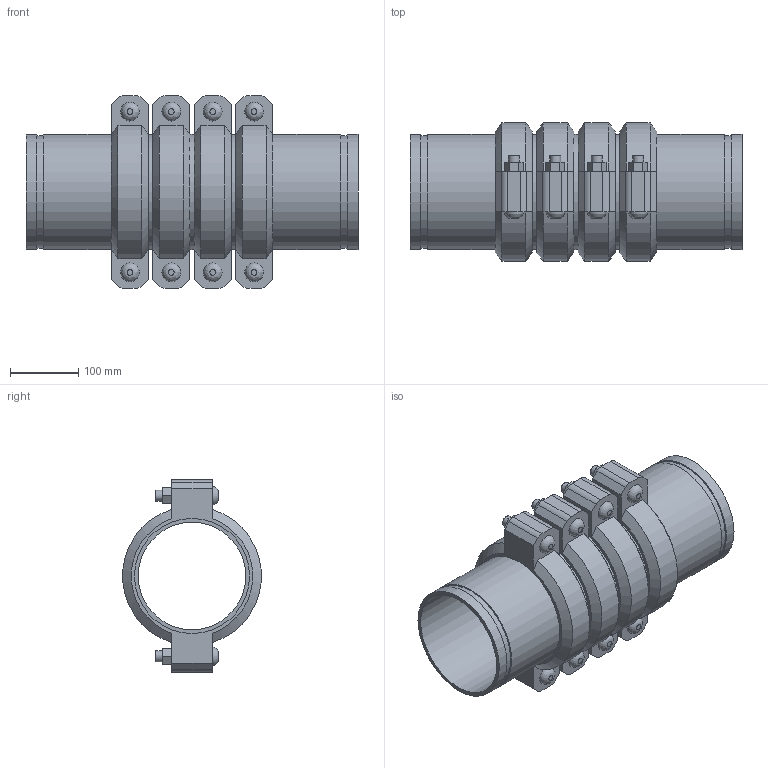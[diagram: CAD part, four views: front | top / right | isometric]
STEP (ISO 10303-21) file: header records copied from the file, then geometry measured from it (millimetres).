
FILE_DESCRIPTION(/* description */ ('VIC EXPANSION JOINT 4 COUPLINGS COMPRESSED STYLE 155 (OGS)','CAx-IF Rec.Pracs.---Representation and Presentation of Product Manufacturing Information (PMI)---4.0---2014-10-13'),/* implementation_level */ '2;1');
FILE_NAME(/* name */ 'C:\Users\kkamble\AppData\Roaming\Autodesk\ApplicationPlugins\Victaulic.Temp\A318\Victaulic_IPS_Expansion Joint_Compressed_4 Couplings_Style 155 (OGS)_6 (150).stp',/* time_stamp */ '2021-06-27T00:27:50+02:00',/* author */ ('kkamble'),/* organization */ ('Victaulic'),/* preprocessor_version */ 'ST-DEVELOPER v17.2',/* originating_system */ 'Autodesk Inventor 2019',/* authorisation */ '');
FILE_SCHEMA (('AP242_MANAGED_MODEL_BASED_3D_ENGINEERING_MIM_LF { 1 0 10303 442 1 1 4 }'));
Length unit declared in the file: inch
Products named in the file (4): 155-06.0; Nipple-06.0; Nipple-06.0_1; 075_4_Coup-06.0
Assembly tree (9 placements, depth 2):
  155-06.0
    Nipple-06.0  x2
    Nipple-06.0_1  x3
    075_4_Coup-06.0  x4
Bounding box: 485.39 x 202.46 x 281.18 mm (x, y, z)
Volume: 4268937.2 mm3; surface area: 996895.4 mm2
Topology: 9 solids, 17 shells, 288 faces, 682 edges, 480 vertices
Faces by surface type: plane 174, cylinder 90, cone 16, bspline 8
Full cylindrical faces by diameter (mm): 15.875 x16, 17.424 x8, 157.15 x5, 161.925 x4, 163.957 x10, 168.275 x23
Entity records: 2794 total; most frequent: CARTESIAN_POINT 493, DIRECTION 461, ORIENTED_EDGE 386, EDGE_CURVE 193, AXIS2_PLACEMENT_3D 184, VERTEX_POINT 138, EDGE_LOOP 107, LINE 93
